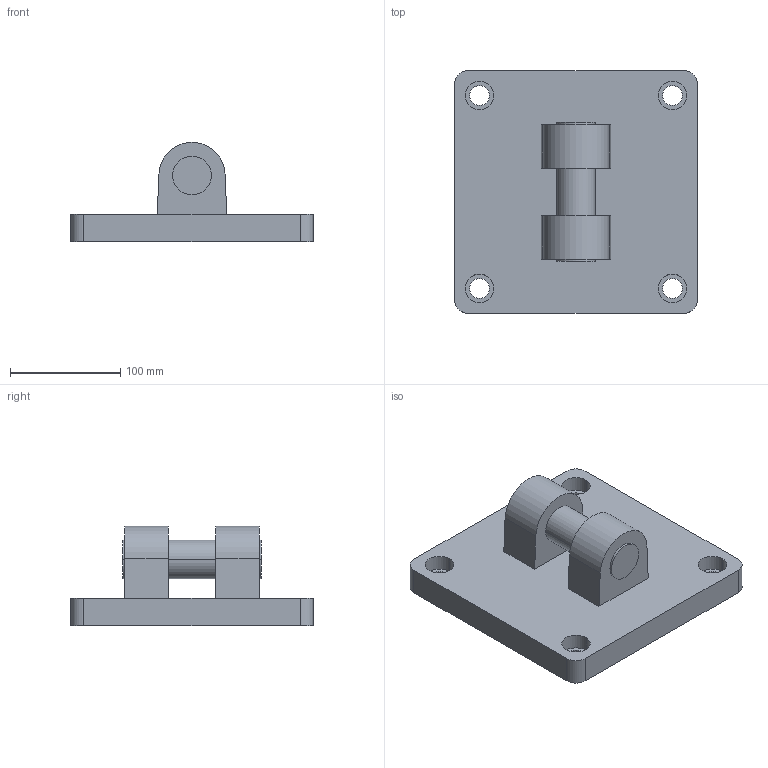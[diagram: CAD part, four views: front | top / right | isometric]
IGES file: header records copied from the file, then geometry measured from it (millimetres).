
Global section: file name: No Iges File Name specified; native system: AutoDesk Inventor R11.0; preprocessor: AutoDesk Inventor Iges Exporter R11.0; author: No Author specified; organization: No Organization specified; date: 20060711.173716; units: millimetre
Bounding box: 220 x 220 x 90 mm (x, y, z)
Volume: 1471086.2 mm3; surface area: 149756.8 mm2
Topology: 1 solids, 1 shells, 51 faces, 120 edges, 80 vertices
Faces by surface type: bspline 23, plane 16, cylinder 12
